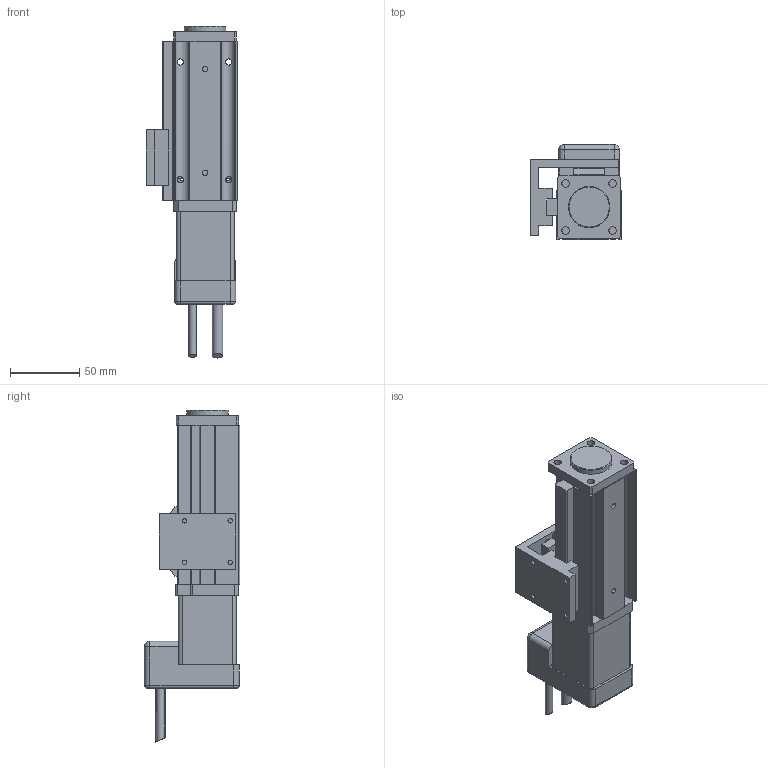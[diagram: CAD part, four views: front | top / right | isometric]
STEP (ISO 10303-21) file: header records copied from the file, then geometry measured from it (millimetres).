
FILE_DESCRIPTION(/* description */ ('Alibre Inc.'),/* implementation_level */ '2;1');
FILE_NAME(/* name */ 'export0',/* time_stamp */ '2011-08-02T11:25:22-04:00',/* author */ (''),/* organization */ (''),/* preprocessor_version */ 'ST-DEVELOPER v10',/* originating_system */ 'Alibre',/* authorisation */ '');
FILE_SCHEMA (('CONFIG_CONTROL_DESIGN'));
Length unit declared in the file: centimetre
Products named in the file (3): ID_1; ID_2
Bounding box: 66 x 68.8 x 239.76 mm (x, y, z)
Volume: 435510.2 mm3; surface area: 70916.6 mm2
Topology: 2 solids, 2 shells, 220 faces, 585 edges, 373 vertices
Faces by surface type: plane 130, cylinder 79, cone 5, torus 4, sphere 2
Full cylindrical faces by diameter (mm): 2.459 x3, 2.5 x1, 3 x2, 3.242 x12, 4 x2, 4.5 x4, 5 x1, 5.5 x5, 7.5 x1, 8 x4, 12 x1, 22 x1, 30 x1
Entity records: 6500 total; most frequent: CARTESIAN_POINT 1173, ORIENTED_EDGE 1038, DIRECTION 927, EDGE_CURVE 519, AXIS2_PLACEMENT_3D 365, VERTEX_POINT 356, FACE_BOUND 313, EDGE_LOOP 309
